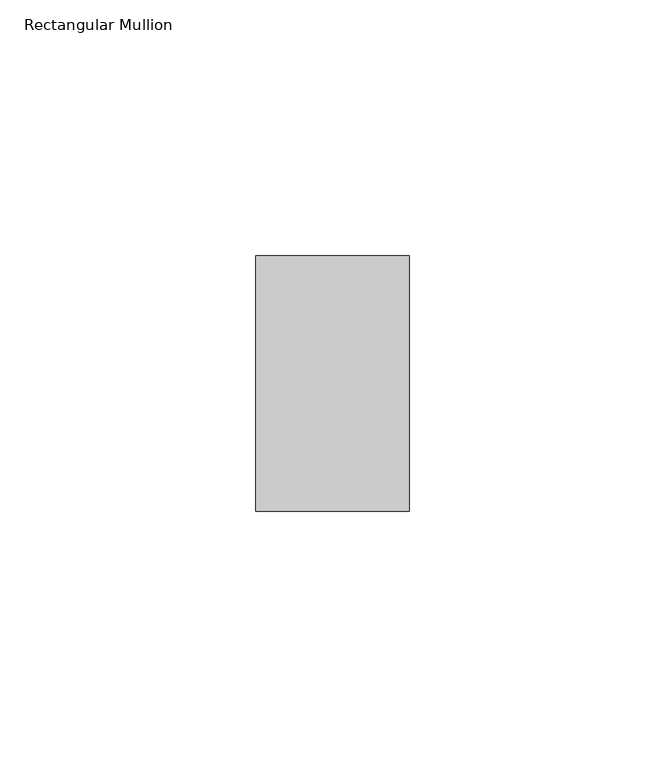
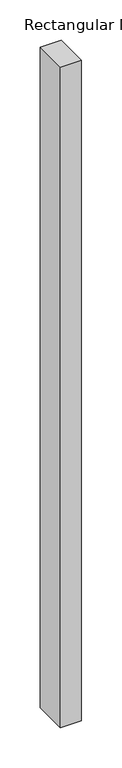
"""IFC4 building model written with IfcOpenShell, lengths in millimetres: member geometry, Rectangular Mullion : ARQ_TV_MULL_50x30mm."""

from ifc_helpers import new_model, si_unit, frame, origin, place, context, project, spatial, polyline, outline, extrude, source, transform, mapped, element, save


def rectangular_mullion_1d964787(model_context):
    return source(origin(), model_context, "Body", "SweptSolid", [
        extrude(outline(polyline([(0.0, 25.0), (0.0, -25.0), (-30.0, -25.0), (-30.0, 25.0), (0.0, 25.0)])), frame((0.0, 0.0, -1000.0), z_axis=(0.0, 0.0, 1.0), x_axis=(1.0, 0.0, 0.0)), (0.0, 0.0, 1.0), 1000.0),
    ])


if __name__ == "__main__":
    model = new_model("IFC4")
    model_context = context("Model", 3, world=origin())
    ifc_project = project(units=[si_unit("LENGTHUNIT", "METRE", prefix="MILLI")], contexts=[model_context])
    site = spatial("IfcSite", under=ifc_project)
    building = spatial("IfcBuilding", under=site)
    placement = place(None, origin())
    rectangular_mullion_shape = rectangular_mullion_1d964787(model_context)
    element("IfcMember", 1, ObjectType="Rectangular Mullion : ARQ_TV_MULL_50x30mm", at=placement, inside=building, context=model_context, shape_type="MappedRepresentation", body=[
        mapped(rectangular_mullion_shape, transform((0.0, 0.0, 0.0), x_axis=(1.0, 0.0, 0.0), y_axis=(0.0, 1.0, 0.0), z_axis=(0.0, 0.0, 1.0))),
    ])
    save(model, "model.ifc")
